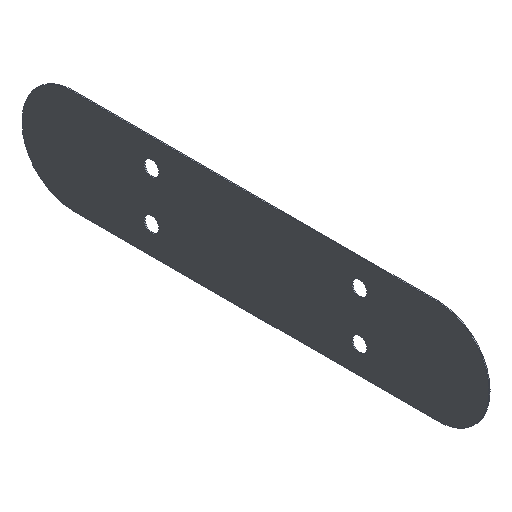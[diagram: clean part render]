
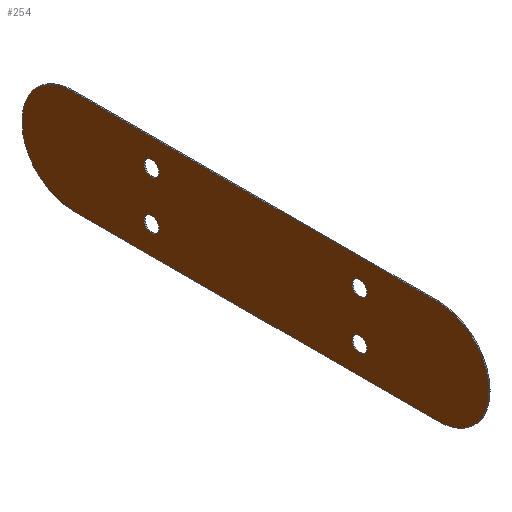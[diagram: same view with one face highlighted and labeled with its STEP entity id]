
A CAD part, isometric view. The second image highlights one B-rep face of the part: STEP entity #254.
In plain terms, the highlighted planar face has unit normal (-1, 0, 0).
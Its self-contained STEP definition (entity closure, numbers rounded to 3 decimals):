
#19=FACE_BOUND('',#45,.T.);
#20=FACE_BOUND('',#46,.T.);
#21=FACE_BOUND('',#47,.T.);
#22=FACE_BOUND('',#48,.T.);
#27=PLANE('',#284);
#30=FACE_OUTER_BOUND('',#44,.T.);
#44=EDGE_LOOP('',(#177,#178,#179,#180,#181,#182,#183,#184));
#45=EDGE_LOOP('',(#185));
#46=EDGE_LOOP('',(#186));
#47=EDGE_LOOP('',(#187));
#48=EDGE_LOOP('',(#188));
#67=CIRCLE('',#285,5.862);
#68=CIRCLE('',#286,5.862);
#69=CIRCLE('',#287,5.862);
#70=CIRCLE('',#288,5.862);
#71=CIRCLE('',#289,0.85);
#72=CIRCLE('',#290,0.85);
#73=CIRCLE('',#291,0.85);
#74=CIRCLE('',#292,0.85);
#89=LINE('',#413,#101);
#91=LINE('',#423,#103);
#92=LINE('',#427,#104);
#93=LINE('',#431,#105);
#101=VECTOR('',#323,1.);
#103=VECTOR('',#333,1.);
#104=VECTOR('',#336,1.);
#105=VECTOR('',#339,1.);
#113=VERTEX_POINT('',#411);
#114=VERTEX_POINT('',#412);
#117=VERTEX_POINT('',#420);
#118=VERTEX_POINT('',#422);
#119=VERTEX_POINT('',#424);
#120=VERTEX_POINT('',#426);
#121=VERTEX_POINT('',#428);
#122=VERTEX_POINT('',#430);
#123=VERTEX_POINT('',#433);
#124=VERTEX_POINT('',#435);
#125=VERTEX_POINT('',#437);
#126=VERTEX_POINT('',#439);
#137=EDGE_CURVE('',#113,#114,#89,.T.);
#141=EDGE_CURVE('',#114,#117,#67,.T.);
#142=EDGE_CURVE('',#117,#118,#91,.T.);
#143=EDGE_CURVE('',#118,#119,#68,.T.);
#144=EDGE_CURVE('',#119,#120,#92,.T.);
#145=EDGE_CURVE('',#120,#121,#69,.T.);
#146=EDGE_CURVE('',#121,#122,#93,.T.);
#147=EDGE_CURVE('',#122,#113,#70,.T.);
#148=EDGE_CURVE('',#123,#123,#71,.T.);
#149=EDGE_CURVE('',#124,#124,#72,.T.);
#150=EDGE_CURVE('',#125,#125,#73,.T.);
#151=EDGE_CURVE('',#126,#126,#74,.T.);
#177=ORIENTED_EDGE('',*,*,#137,.T.);
#178=ORIENTED_EDGE('',*,*,#141,.T.);
#179=ORIENTED_EDGE('',*,*,#142,.T.);
#180=ORIENTED_EDGE('',*,*,#143,.T.);
#181=ORIENTED_EDGE('',*,*,#144,.T.);
#182=ORIENTED_EDGE('',*,*,#145,.T.);
#183=ORIENTED_EDGE('',*,*,#146,.T.);
#184=ORIENTED_EDGE('',*,*,#147,.T.);
#185=ORIENTED_EDGE('',*,*,#148,.T.);
#186=ORIENTED_EDGE('',*,*,#149,.T.);
#187=ORIENTED_EDGE('',*,*,#150,.T.);
#188=ORIENTED_EDGE('',*,*,#151,.T.);
#254=ADVANCED_FACE('',(#30,#19,#20,#21,#22),#27,.F.);
#284=AXIS2_PLACEMENT_3D('',#419,#329,#330);
#285=AXIS2_PLACEMENT_3D('',#421,#331,#332);
#286=AXIS2_PLACEMENT_3D('',#425,#334,#335);
#287=AXIS2_PLACEMENT_3D('',#429,#337,#338);
#288=AXIS2_PLACEMENT_3D('',#432,#340,#341);
#289=AXIS2_PLACEMENT_3D('',#434,#342,#343);
#290=AXIS2_PLACEMENT_3D('',#436,#344,#345);
#291=AXIS2_PLACEMENT_3D('',#438,#346,#347);
#292=AXIS2_PLACEMENT_3D('',#440,#348,#349);
#323=DIRECTION('',(0.,0.,1.));
#329=DIRECTION('center_axis',(1.,0.,0.));
#330=DIRECTION('ref_axis',(0.,0.,1.));
#331=DIRECTION('center_axis',(-1.,0.,0.));
#332=DIRECTION('ref_axis',(0.,0.,1.));
#333=DIRECTION('',(0.,1.,0.));
#334=DIRECTION('center_axis',(-1.,0.,0.));
#335=DIRECTION('ref_axis',(0.,0.,1.));
#336=DIRECTION('',(0.,0.,-1.));
#337=DIRECTION('center_axis',(-1.,0.,0.));
#338=DIRECTION('ref_axis',(0.,0.,1.));
#339=DIRECTION('',(0.,-1.,0.));
#340=DIRECTION('center_axis',(-1.,0.,0.));
#341=DIRECTION('ref_axis',(0.,0.,1.));
#342=DIRECTION('center_axis',(1.,0.,0.));
#343=DIRECTION('ref_axis',(0.,1.,0.));
#344=DIRECTION('center_axis',(1.,0.,0.));
#345=DIRECTION('ref_axis',(0.,1.,0.));
#346=DIRECTION('center_axis',(1.,0.,0.));
#347=DIRECTION('ref_axis',(0.,1.,0.));
#348=DIRECTION('center_axis',(1.,0.,0.));
#349=DIRECTION('ref_axis',(0.,1.,0.));
#411=CARTESIAN_POINT('',(-40.1,-14.962,-12.1));
#412=CARTESIAN_POINT('',(-40.1,-14.962,-11.9));
#413=CARTESIAN_POINT('',(-40.1,-14.962,-11.95));
#419=CARTESIAN_POINT('Origin',(-40.1,-80.,-30.));
#420=CARTESIAN_POINT('',(-40.1,-9.1,-6.038));
#421=CARTESIAN_POINT('Origin',(-40.1,-9.1,-11.9));
#422=CARTESIAN_POINT('',(-40.1,33.1,-6.038));
#423=CARTESIAN_POINT('',(-40.1,22.55,-6.038));
#424=CARTESIAN_POINT('',(-40.1,38.962,-11.9));
#425=CARTESIAN_POINT('Origin',(-40.1,33.1,-11.9));
#426=CARTESIAN_POINT('',(-40.1,38.962,-12.1));
#427=CARTESIAN_POINT('',(-40.1,38.962,-12.05));
#428=CARTESIAN_POINT('',(-40.1,33.1,-17.962));
#429=CARTESIAN_POINT('Origin',(-40.1,33.1,-12.1));
#430=CARTESIAN_POINT('',(-40.1,-9.1,-17.962));
#431=CARTESIAN_POINT('',(-40.1,1.45,-17.962));
#432=CARTESIAN_POINT('Origin',(-40.1,-9.1,-12.1));
#433=CARTESIAN_POINT('',(-40.1,23.15,-14.8));
#434=CARTESIAN_POINT('Origin',(-40.1,24.,-14.8));
#435=CARTESIAN_POINT('',(-40.1,23.15,-9.2));
#436=CARTESIAN_POINT('Origin',(-40.1,24.,-9.2));
#437=CARTESIAN_POINT('',(-40.1,-0.85,-14.8));
#438=CARTESIAN_POINT('Origin',(-40.1,0.,-14.8));
#439=CARTESIAN_POINT('',(-40.1,-0.85,-9.2));
#440=CARTESIAN_POINT('Origin',(-40.1,0.,-9.2));
